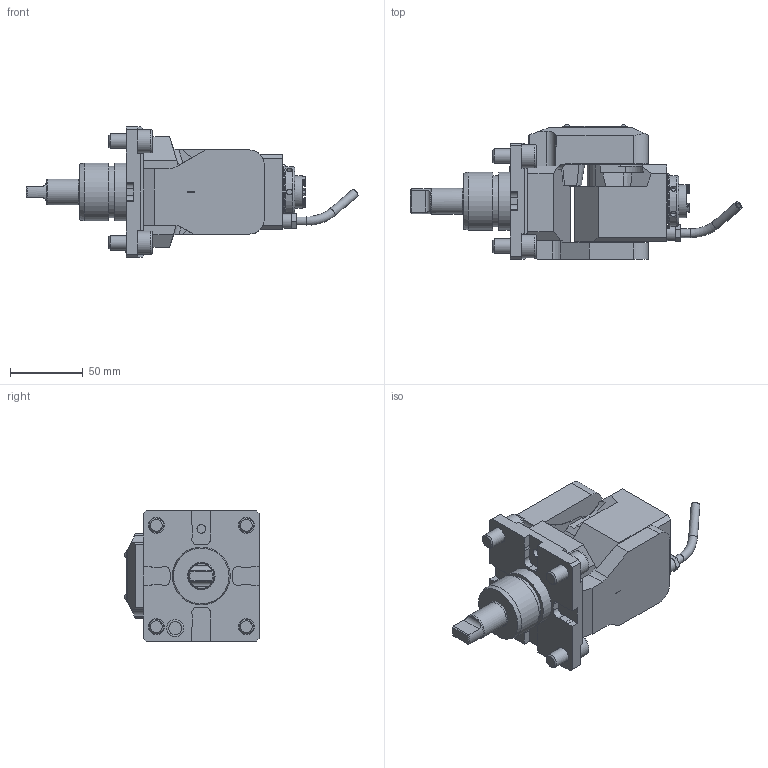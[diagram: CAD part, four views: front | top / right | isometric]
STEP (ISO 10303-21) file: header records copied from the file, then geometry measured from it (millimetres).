
FILE_DESCRIPTION(/* description */ (''),/* implementation_level */ '2;1');
FILE_NAME(/* name */ '189683',/* time_stamp */ '2023-04-20T15:18:39+02:00',/* author */ (''),/* organization */ (''),/* preprocessor_version */ 'ST-DEVELOPER v16.5',/* originating_system */ 'HiCAD 2017 2201.0 Build 268',/* authorisation */ '');
FILE_SCHEMA (('AUTOMOTIVE_DESIGN { 1 0 10303 214 1 1 1 1 }'));
Length unit declared in the file: millimetre
Products named in the file (14): Root; Teil; GEWINDE; DIN 13-M15x1; DIN 76-M6; DIN 76-M5; DIN 13-M24x1; 0°
Assembly tree (13 placements, depth 3):
  Root
    Teil
      GEWINDE
      GEWINDE
      GEWINDE
      GEWINDE
      GEWINDE
      DIN 13-M15x1
      DIN 13-M15x1
      DIN 76-M6
      DIN 76-M5
      DIN 13-M24x1
      DIN 76-M5
      0°
Bounding box: 228.67 x 92.8 x 90 mm (x, y, z)
Volume: 535099.7 mm3; surface area: 85564.8 mm2
Topology: 16 solids, 25 shells, 732 faces, 1843 edges, 1210 vertices
Faces by surface type: plane 429, cylinder 197, cone 42, bspline 38, torus 21, sphere 5
Full cylindrical faces by diameter (mm): 2.2 x4, 4 x2, 4.1 x6, 4.2 x2, 4.773 x8, 5 x3, 6 x11, 6.8 x1, 8.16 x8, 8.773 x2, 10 x9, 10.5 x1, 11 x5, 11.1 x1, 12.7 x2, 13.773 x1, 14.3 x1, 15 x1, 16 x4, 17.8 x1, 22.5 x1, 22.773 x2, 23 x1, 24 x3, 24.5 x1, 30 x1, 35 x1, 35.4 x1, 38 x1, 39.9 x2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
Entity records: 45173 total; most frequent: CARTESIAN_POINT 9558, PRESENTATION_STYLE_ASSIGNMENT 3668, OVER_RIDING_STYLED_ITEM 3656, DIRECTION 3347, COLOUR_RGB 3306, DRAUGHTING_PRE_DEFINED_CURVE_FONT 3300, CURVE_STYLE 3300, ORIENTED_EDGE 3300
